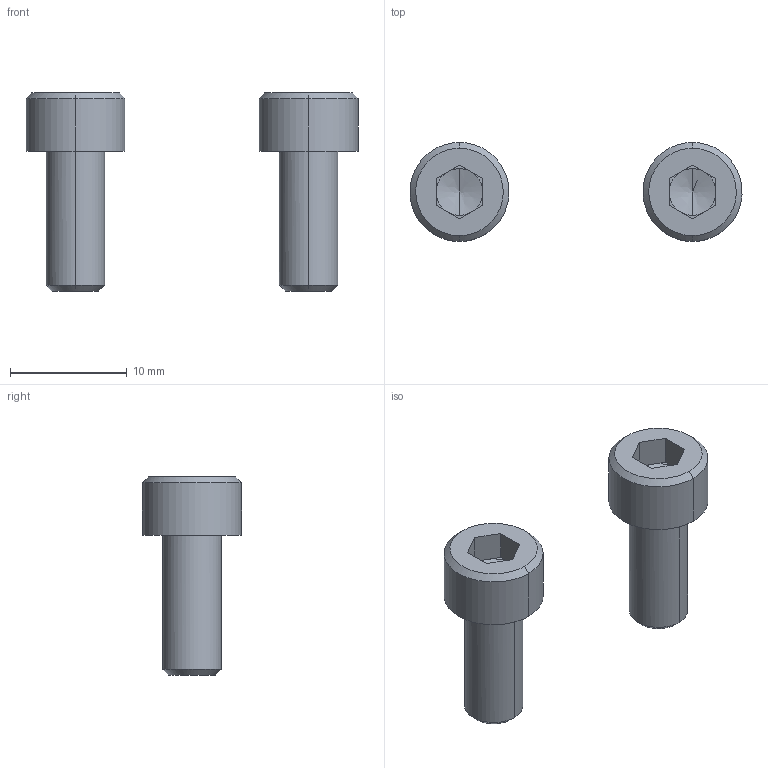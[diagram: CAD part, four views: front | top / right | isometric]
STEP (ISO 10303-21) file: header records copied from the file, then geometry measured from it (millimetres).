
FILE_DESCRIPTION(/* description */ (''),/* implementation_level */ '2;1');
FILE_NAME(/* name */ '8.x-drive#8.3#CB5-12',/* time_stamp */ '2014-12-01T20:18:00+01:00',/* author */ (''),/* organization */ (''),/* preprocessor_version */ 'ST-DEVELOPER v14',/* originating_system */ '',/* authorisation */ '');
FILE_SCHEMA (('AUTOMOTIVE_DESIGN'));
Length unit declared in the file: millimetre
Products named in the file (2): Document; screw DIN912-like, M5x12
Assembly tree (2 placements, depth 2):
  Document
    screw DIN912-like, M5x12  x2
Bounding box: 28.49 x 8.5 x 17 mm (x, y, z)
Volume: 957.3 mm3; surface area: 915.4 mm2
Topology: 2 solids, 2 shells, 50 faces, 112 edges, 66 vertices
Faces by surface type: plane 30, bspline 20
Entity records: 1413 total; most frequent: CARTESIAN_POINT 633, B_SPLINE_CURVE_WITH_KNOTS 126, ORIENTED_EDGE 108, PCURVE 108, DEFINITIONAL_REPRESENTATION 108, SURFACE_CURVE 54, EDGE_CURVE 54, VERTEX_POINT 33
